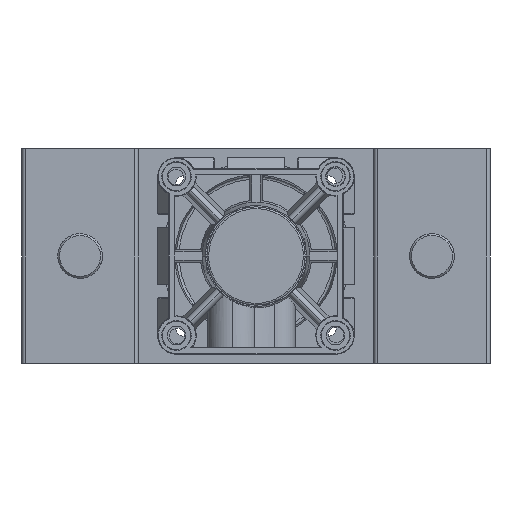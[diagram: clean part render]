
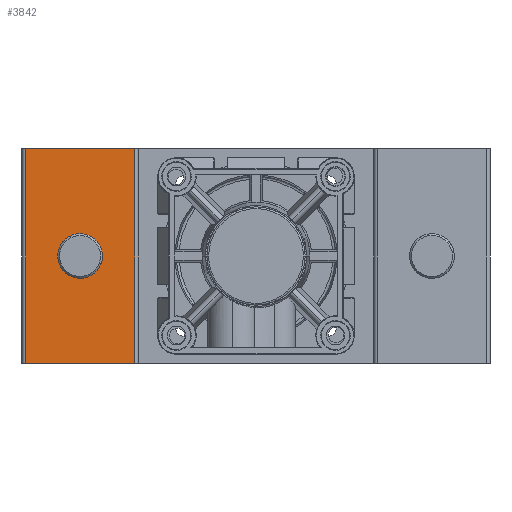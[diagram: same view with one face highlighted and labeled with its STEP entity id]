
A CAD part, front view. The second image highlights one B-rep face of the part: STEP entity #3842.
In plain terms, the highlighted planar face has unit normal (0, -1, 0).
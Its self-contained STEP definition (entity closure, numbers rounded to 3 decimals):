
#968 = DIRECTION ( 'NONE',  ( 0., -1., 0. ) ) ;
#992 = CARTESIAN_POINT ( 'NONE',  ( 63., -230., 120. ) ) ;
#1736 = ORIENTED_EDGE ( 'NONE', *, *, #16572, .F. ) ;
#3271 = DIRECTION ( 'NONE',  ( 0., -1., 0. ) ) ;
#3371 = EDGE_CURVE ( 'NONE', #17342, #29726, #20643, .T. ) ;
#3752 = CARTESIAN_POINT ( 'NONE',  ( 2., -230., 0. ) ) ;
#3842 = ADVANCED_FACE ( 'NONE', ( #9491, #50253 ), #45079, .F. ) ;
#3896 = VECTOR ( 'NONE', #15145, 1000. ) ;
#4605 = CARTESIAN_POINT ( 'NONE',  ( 32.5, -230., 72.5 ) ) ;
#5200 = AXIS2_PLACEMENT_3D ( 'NONE', #24636, #968, #28590 ) ;
#7905 = DIRECTION ( 'NONE',  ( 0., 0., -1. ) ) ;
#9491 = FACE_BOUND ( 'NONE', #17962, .T. ) ;
#10161 = VECTOR ( 'NONE', #36525, 1000. ) ;
#14343 = AXIS2_PLACEMENT_3D ( 'NONE', #26882, #3271, #30875 ) ;
#14366 = LINE ( 'NONE', #31231, #35322 ) ;
#15145 = DIRECTION ( 'NONE',  ( 0., 0., -1. ) ) ;
#15637 = EDGE_CURVE ( 'NONE', #17342, #19993, #24339, .T. ) ;
#15666 = CARTESIAN_POINT ( 'NONE',  ( 2., -230., 120. ) ) ;
#16572 = EDGE_CURVE ( 'NONE', #20738, #23864, #29855, .T. ) ;
#16607 = VERTEX_POINT ( 'NONE', #39141 ) ;
#17342 = VERTEX_POINT ( 'NONE', #50408 ) ;
#17962 = EDGE_LOOP ( 'NONE', ( #50530, #1736 ) ) ;
#19380 = ORIENTED_EDGE ( 'NONE', *, *, #3371, .F. ) ;
#19993 = VERTEX_POINT ( 'NONE', #3752 ) ;
#20643 = LINE ( 'NONE', #992, #10161 ) ;
#20738 = VERTEX_POINT ( 'NONE', #4605 ) ;
#21487 = DIRECTION ( 'NONE',  ( 0., 1., 0. ) ) ;
#23864 = VERTEX_POINT ( 'NONE', #33657 ) ;
#23881 = CARTESIAN_POINT ( 'NONE',  ( 63., -230., 120. ) ) ;
#24339 = LINE ( 'NONE', #15666, #33604 ) ;
#24636 = CARTESIAN_POINT ( 'NONE',  ( 32.5, -230., 60. ) ) ;
#26882 = CARTESIAN_POINT ( 'NONE',  ( 32.5, -230., 60. ) ) ;
#27264 = DIRECTION ( 'NONE',  ( 1., 0., 0. ) ) ;
#27859 = CIRCLE ( 'NONE', #5200, 12.5 ) ;
#28590 = DIRECTION ( 'NONE',  ( 0., 0., 1. ) ) ;
#29726 = VERTEX_POINT ( 'NONE', #23881 ) ;
#29855 = CIRCLE ( 'NONE', #14343, 12.5 ) ;
#30875 = DIRECTION ( 'NONE',  ( 0., 0., 1. ) ) ;
#31231 = CARTESIAN_POINT ( 'NONE',  ( 63., -230., 0. ) ) ;
#33273 = EDGE_CURVE ( 'NONE', #23864, #20738, #27859, .T. ) ;
#33604 = VECTOR ( 'NONE', #7905, 1000. ) ;
#33657 = CARTESIAN_POINT ( 'NONE',  ( 32.5, -230., 47.5 ) ) ;
#35322 = VECTOR ( 'NONE', #27264, 1000. ) ;
#36170 = ORIENTED_EDGE ( 'NONE', *, *, #43061, .T. ) ;
#36525 = DIRECTION ( 'NONE',  ( 1., 0., 0. ) ) ;
#38756 = CARTESIAN_POINT ( 'NONE',  ( 63., -230., 120. ) ) ;
#39141 = CARTESIAN_POINT ( 'NONE',  ( 63., -230., 0. ) ) ;
#40263 = ORIENTED_EDGE ( 'NONE', *, *, #48218, .F. ) ;
#40947 = CARTESIAN_POINT ( 'NONE',  ( 63., -230., 120. ) ) ;
#42508 = EDGE_LOOP ( 'NONE', ( #36170, #40263, #19380, #49772 ) ) ;
#43061 = EDGE_CURVE ( 'NONE', #19993, #16607, #14366, .T. ) ;
#43689 = AXIS2_PLACEMENT_3D ( 'NONE', #40947, #21487, #49038 ) ;
#45079 = PLANE ( 'NONE',  #43689 ) ;
#45848 = LINE ( 'NONE', #38756, #3896 ) ;
#48218 = EDGE_CURVE ( 'NONE', #29726, #16607, #45848, .T. ) ;
#49038 = DIRECTION ( 'NONE',  ( -1., 0., 0. ) ) ;
#49772 = ORIENTED_EDGE ( 'NONE', *, *, #15637, .T. ) ;
#50253 = FACE_OUTER_BOUND ( 'NONE', #42508, .T. ) ;
#50408 = CARTESIAN_POINT ( 'NONE',  ( 2., -230., 120. ) ) ;
#50530 = ORIENTED_EDGE ( 'NONE', *, *, #33273, .F. ) ;
